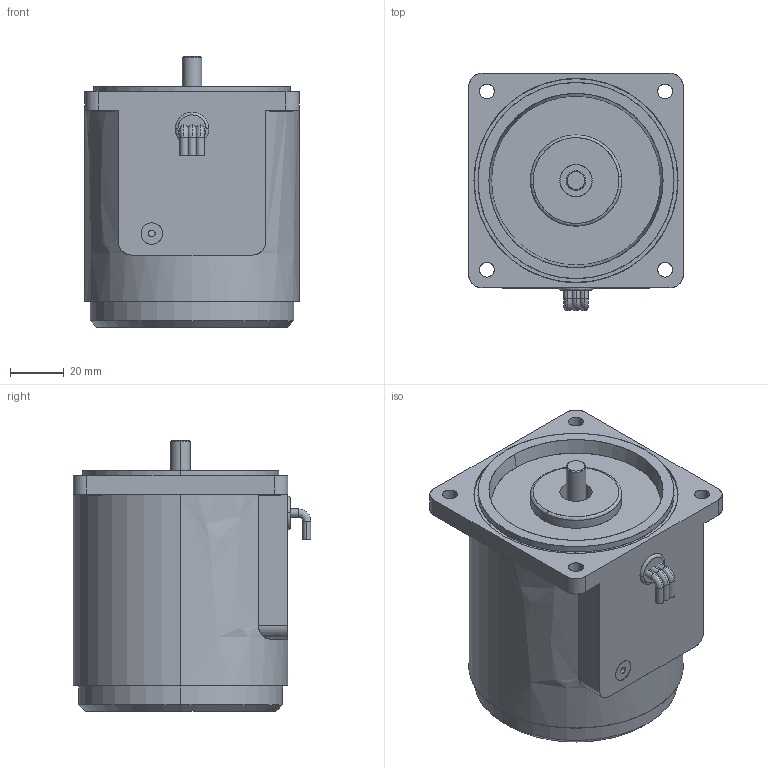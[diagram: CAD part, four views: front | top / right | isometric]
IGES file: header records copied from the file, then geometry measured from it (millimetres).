
Start section: SolidWorks IGES file using analytic representation for surfaces
Bounding box: 80 x 88.5 x 101 mm (x, y, z)
Surface area: 70466.7 mm2 (no closed solid volume)
Topology: 0 solids, 0 shells, 119 faces, 2792 edges, 2792 vertices
Faces by surface type: revolution 68, bspline 51
